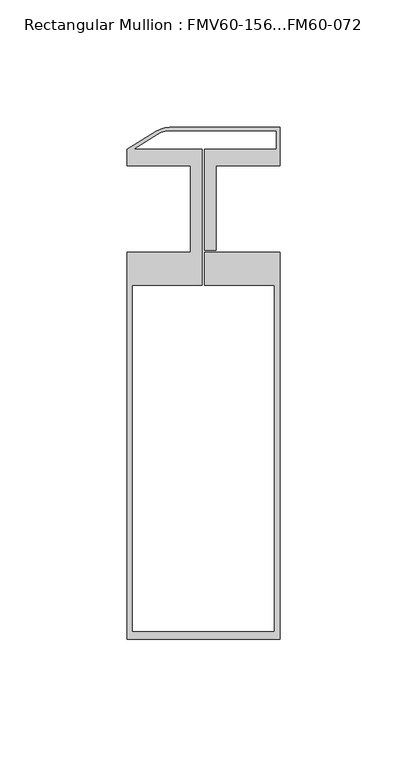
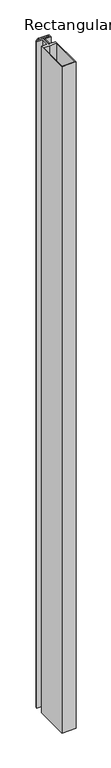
"""IFC4 building model written with IfcOpenShell, lengths in millimetres: member geometry, Rectangular Mullion : FMV60-156...FM60-072."""

from ifc_helpers import new_model, si_unit, point, frame, frame_2d, origin, place, context, project, spatial, polyline, circle_curve, trimmed, segment, composite_curve, outline, extrude, source, transform, mapped, element, save


def rectangular_mullion_fmv60_156_fm60_072_3197a984(model_context):
    return source(origin(), model_context, "Body", "SweptSolid", [
        extrude(outline(composite_curve([segment(polyline([(-18.0771682, 29.3659108), (-27.4819874, 23.4439081), (-0.5, 23.4439081), (-0.5, -29.9945799), (-28.0, -29.9945799), (-28.0, -165.9990577), (28.0, -165.9990577), (28.0, -29.9945799), (0.5, -29.9945799), (0.5, -17.0), (30.0, -17.0), (30.0, -168.9990577), (-30.0, -168.9990577), (-30.0, -17.0), (-4.9995097, -17.0), (-4.9995097, 17.0), (-30.0, 17.0), (-30.0, 23.3946256), (-18.6292586, 30.5545253)]), True, "CONTINUOUS"), segment(trimmed(circle_curve(frame_2d((-13.300836, 22.0923794)), 10.0), [point((-18.6292586, 30.5545253))], [point((-13.300836, 32.0923794))], False, "CARTESIAN"), True, "CONTINUOUS"), segment(polyline([(-13.300836, 32.0923794), (30.0, 32.0923794), (30.0, 17.0), (5.0004903, 17.0), (5.0004903, -16.2), (0.5, -16.2), (0.5, 23.4439081), (28.7000412, 23.4439081), (28.7000412, 30.7038439), (-13.4414405, 30.7038439)]), True, "CONTINUOUS"), segment(trimmed(circle_curve(frame_2d((-13.4414405, 22.0038439)), 8.7), [point((-13.4414405, 30.7038439))], [point((-18.0771682, 29.3659108))], True, "CARTESIAN"), True, "CONTINUOUS")], self_intersect=False)), frame((0.0, 0.0, -3000.0), z_axis=(0.0, 0.0, 1.0), x_axis=(1.0, 0.0, 0.0)), (0.0, 0.0, 1.0), 3000.0),
    ])


if __name__ == "__main__":
    model = new_model("IFC4")
    model_context = context("Model", 3, world=origin())
    ifc_project = project(units=[si_unit("LENGTHUNIT", "METRE", prefix="MILLI")], contexts=[model_context])
    site = spatial("IfcSite", under=ifc_project)
    building = spatial("IfcBuilding", under=site)
    placement = place(None, origin())
    rectangular_mullion_fmv60_156_fm60_072_shape = rectangular_mullion_fmv60_156_fm60_072_3197a984(model_context)
    element("IfcMember", 1, ObjectType="Rectangular Mullion : FMV60-156...FM60-072", at=placement, inside=building, context=model_context, shape_type="MappedRepresentation", body=[
        mapped(rectangular_mullion_fmv60_156_fm60_072_shape, transform((0.0, 0.0, 0.0), x_axis=(1.0, 0.0, 0.0), y_axis=(0.0, 1.0, 0.0), z_axis=(0.0, 0.0, 1.0))),
    ])
    save(model, "model.ifc")
